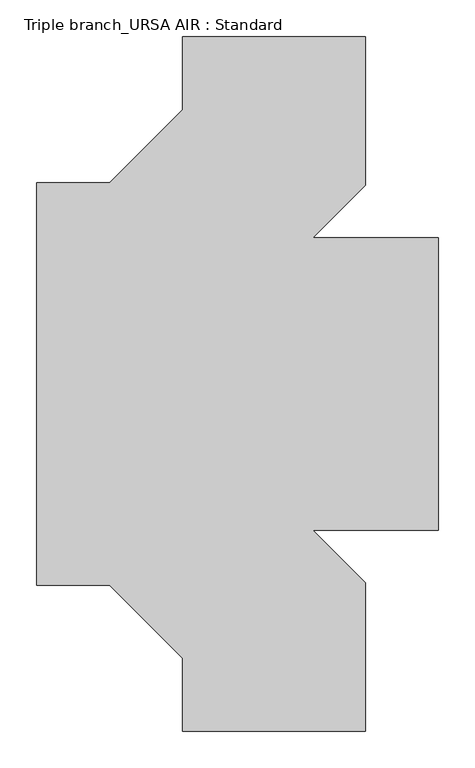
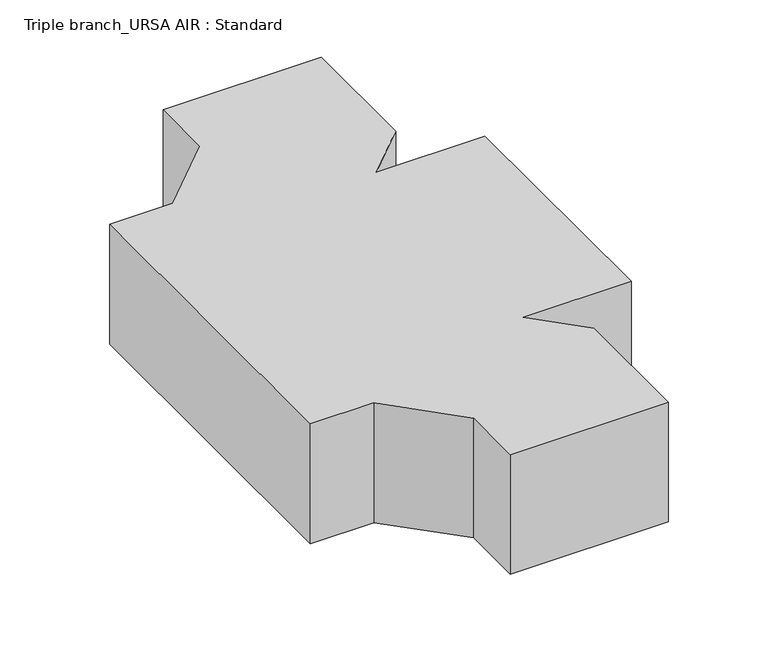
"""IFC4 building model written with IfcOpenShell, lengths in millimetres: duct fitting geometry, Triple branch_URSA AIR : Standard."""

from ifc_helpers import new_model, si_unit, frame, origin, place, context, project, spatial, polyline, outline, extrude, source, transform, mapped, element, save


def triple_branch_ursa_air_standard_9e9e5ed0(model_context):
    return source(origin(), model_context, "Body", "SweptSolid", [
        extrude(outline(polyline([(100.0, 275.0), (200.0, 375.0), (200.0, 475.0), (450.0, 475.0), (450.0, 271.4466094), (378.5533906, 200.0), (550.0, 200.0), (550.0, -200.0), (378.5533906, -200.0), (450.0, -271.4466094), (450.0, -475.0), (200.0, -475.0), (200.0, -375.0), (100.0, -275.0), (0.0, -275.0), (0.0, 275.0), (100.0, 275.0)])), frame((0.0, 0.0, -100.0), z_axis=(0.0, 0.0, 1.0), x_axis=(1.0, 0.0, 0.0)), (0.0, 0.0, 1.0), 200.0),
    ])


if __name__ == "__main__":
    model = new_model("IFC4")
    model_context = context("Model", 3, world=origin())
    ifc_project = project(units=[si_unit("LENGTHUNIT", "METRE", prefix="MILLI")], contexts=[model_context])
    site = spatial("IfcSite", under=ifc_project)
    building = spatial("IfcBuilding", under=site)
    placement = place(None, origin())
    triple_branch_ursa_air_standard_shape = triple_branch_ursa_air_standard_9e9e5ed0(model_context)
    element("IfcDuctFitting", 1, ObjectType="Triple branch_URSA AIR : Standard", at=placement, inside=building, context=model_context, shape_type="MappedRepresentation", body=[
        mapped(triple_branch_ursa_air_standard_shape, transform((0.0, 0.0, 0.0), x_axis=(1.0, 0.0, 0.0), y_axis=(0.0, 1.0, 0.0), z_axis=(0.0, 0.0, 1.0))),
    ])
    save(model, "model.ifc")
